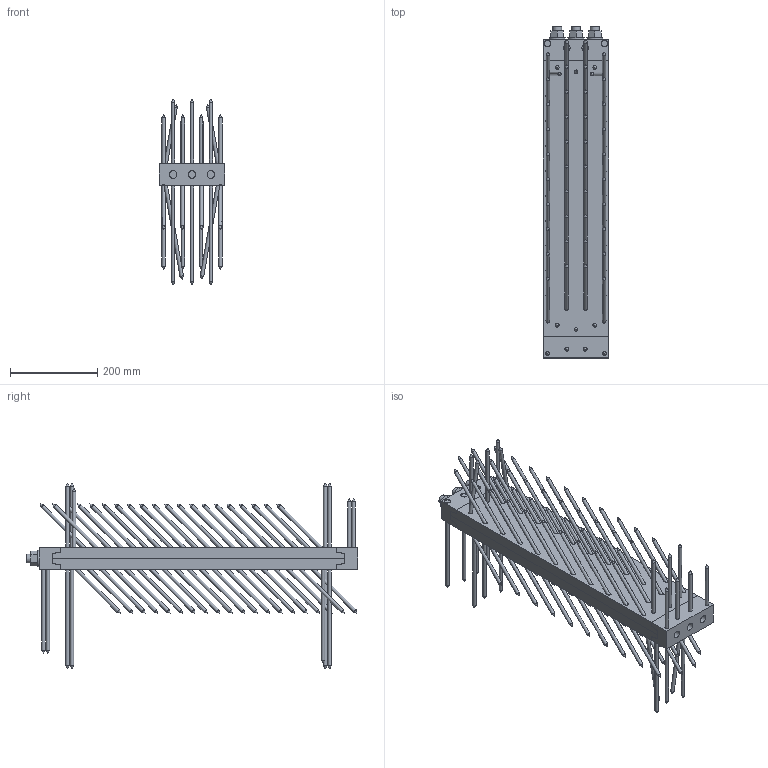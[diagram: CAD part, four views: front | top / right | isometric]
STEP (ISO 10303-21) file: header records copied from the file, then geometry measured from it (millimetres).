
FILE_DESCRIPTION(/* description */ ('Unknown'),/* implementation_level */ '2;1');
FILE_NAME(/* name */ 'MEGANT_730x150x50_Sichtbar',/* time_stamp */ '2020-05-06T08:27:30+02:00',/* author */ ('Unknown'),/* organization */ ('Unknown'),/* preprocessor_version */ 'ST-DEVELOPER v16.7',/* originating_system */ 'DEX',/* authorisation */ $);
FILE_SCHEMA (('AUTOMOTIVE_DESIGN {1 0 10303 214 3 1 1}'));
Length unit declared in the file: millimetre
Products named in the file (14): MEGANT_730x150x50_Sichtbar; Verbinderplatte_670x150x25_NT; SK_Schraube_8x240; Verbinderplatte_670x150x25; SK_Schraube_8x160; Verbinderplatte_670x150x25_HT; Spannbacke_oben_150x50x50_NT; Spannbacke_oben_150x50x50; Gewindestange_M20_L580; Mutter_M20; Beilagscheibe_M20; Spannbacke_unten_150x50x50_HT; Spannbacke_unten_150x50x50
Assembly tree (118 placements, depth 3):
  MEGANT_730x150x50_Sichtbar
    Verbinderplatte_670x150x25_NT
      SK_Schraube_8x240  x8
      Verbinderplatte_670x150x25
      SK_Schraube_8x160  x40
    Verbinderplatte_670x150x25_HT
      SK_Schraube_8x160  x48
      Verbinderplatte_670x150x25
    Spannbacke_oben_150x50x50_NT
      SK_Schraube_8x240  x4
      Spannbacke_oben_150x50x50
    Gewindestange_M20_L580  x3
      Gewindestange_M20_L580
      Mutter_M20
      Beilagscheibe_M20
    Spannbacke_unten_150x50x50_HT
      Spannbacke_unten_150x50x50
      SK_Schraube_8x160  x4
Bounding box: 150 x 760 x 425 mm (x, y, z)
Volume: 5555556 mm3; surface area: 1337122.3 mm2
Topology: 117 solids, 117 shells, 1097 faces, 2405 edges, 1507 vertices
Faces by surface type: cylinder 434, plane 339, cone 312, bspline 12
Full cylindrical faces by diameter (mm): 8 x104, 8.5 x104, 15 x208, 17.294 x6, 20 x3, 21 x6, 37 x3
Entity records: 9605 total; most frequent: CARTESIAN_POINT 1701, DIRECTION 1608, ORIENTED_EDGE 1028, AXIS2_PLACEMENT_3D 705, FACE_BOUND 660, EDGE_LOOP 658, EDGE_CURVE 514, VERTEX_POINT 438
